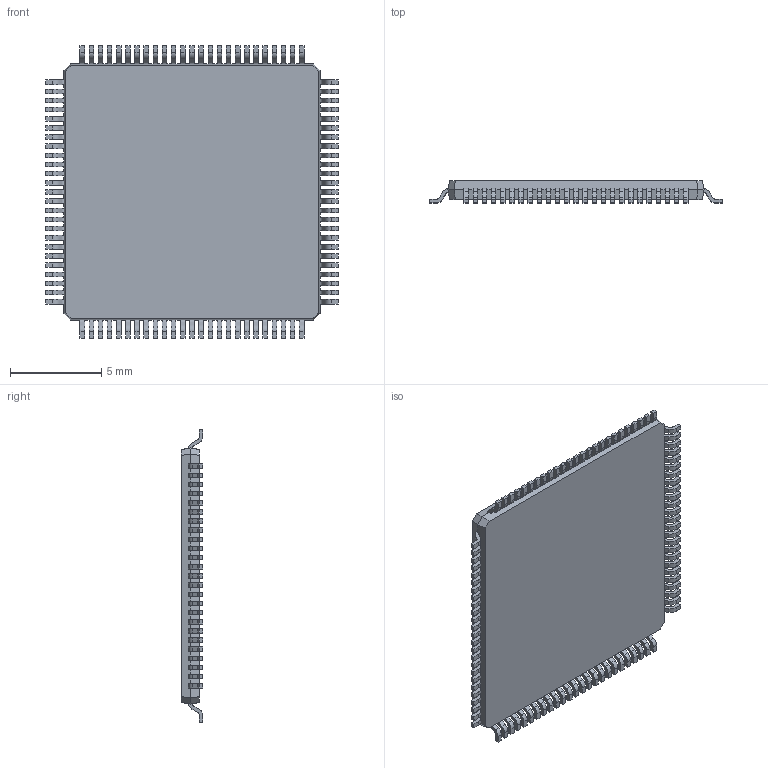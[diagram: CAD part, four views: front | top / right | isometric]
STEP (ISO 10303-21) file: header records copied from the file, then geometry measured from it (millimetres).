
FILE_DESCRIPTION (( 'STEP AP214' ), '1' );
FILE_NAME ('TSQFP50P1600X1600-100.STEP', '2011-01-31T08:46:47', ( 'vpeshkov' ), ( 'cad-design.ru' ), 'SwSTEP 2.0', 'SolidWorks 2009', '' );
FILE_SCHEMA (( 'AUTOMOTIVE_DESIGN' ));
Length unit declared in the file: millimetre
Products named in the file (1): TSQFP50P1600X1600-100
Bounding box: 16 x 1.2 x 16 mm (x, y, z)
Volume: 199.8 mm3; surface area: 554 mm2
Topology: 1 solids, 1 shells, 1124 faces, 3352 edges, 2232 vertices
Faces by surface type: plane 720, cylinder 404
Entity records: 49929 total; most frequent: CARTESIAN_POINT 6709, ORIENTED_EDGE 6704, DIRECTION 6410, EDGE_CURVE 3352, VECTOR 2544, LINE 2544, VERTEX_POINT 2232, AXIS2_PLACEMENT_3D 1933
